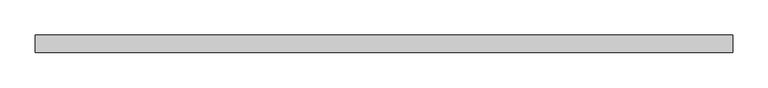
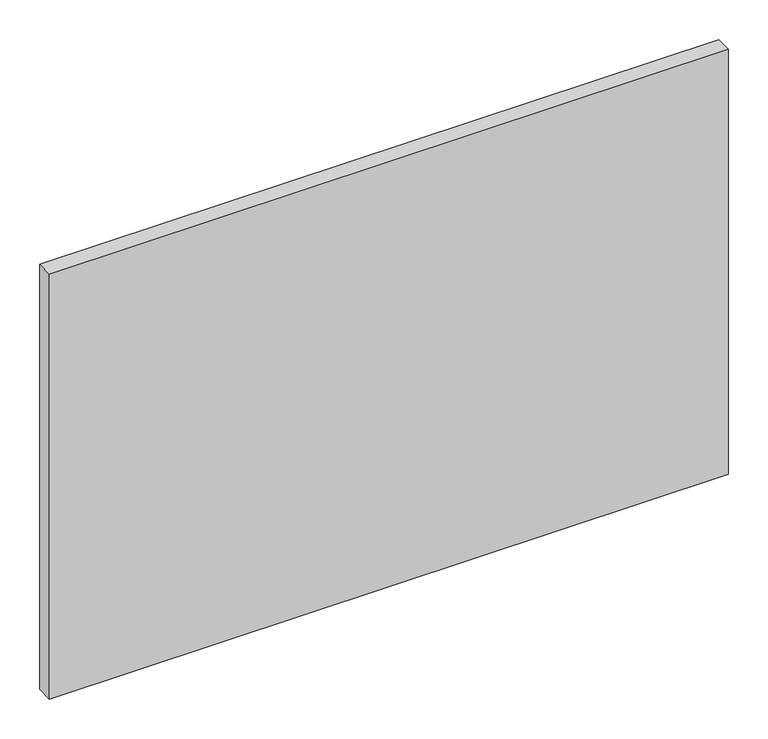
"""IFC4 building model written with IfcOpenShell, lengths in millimetres: plate geometry, 系统嵌板 : 玻璃."""

from ifc_helpers import new_model, si_unit, origin, origin_with_axes, place, context, project, spatial, polyline, outline, extrude, source, transform, mapped, element, save


def plate_f8d70057(model_context):
    return source(origin(), model_context, "Body", "SweptSolid", [
        extrude(outline(polyline([(495.0, -12.5), (-495.0, -12.5), (-495.0, 12.5), (495.0, 12.5), (495.0, -12.5)])), origin_with_axes(), (0.0, 0.0, 1.0), 655.0),
    ])


if __name__ == "__main__":
    model = new_model("IFC4")
    model_context = context("Model", 3, world=origin())
    ifc_project = project(units=[si_unit("LENGTHUNIT", "METRE", prefix="MILLI")], contexts=[model_context])
    site = spatial("IfcSite", under=ifc_project)
    building = spatial("IfcBuilding", under=site)
    placement = place(None, origin())
    plate_shape = plate_f8d70057(model_context)
    element("IfcPlate", 1, ObjectType="系统嵌板 : 玻璃", at=placement, inside=building, context=model_context, shape_type="MappedRepresentation", body=[
        mapped(plate_shape, transform((0.0, 0.0, 0.0), x_axis=(1.0, 0.0, 0.0), y_axis=(0.0, 1.0, 0.0), z_axis=(0.0, 0.0, 1.0))),
    ])
    save(model, "model.ifc")
